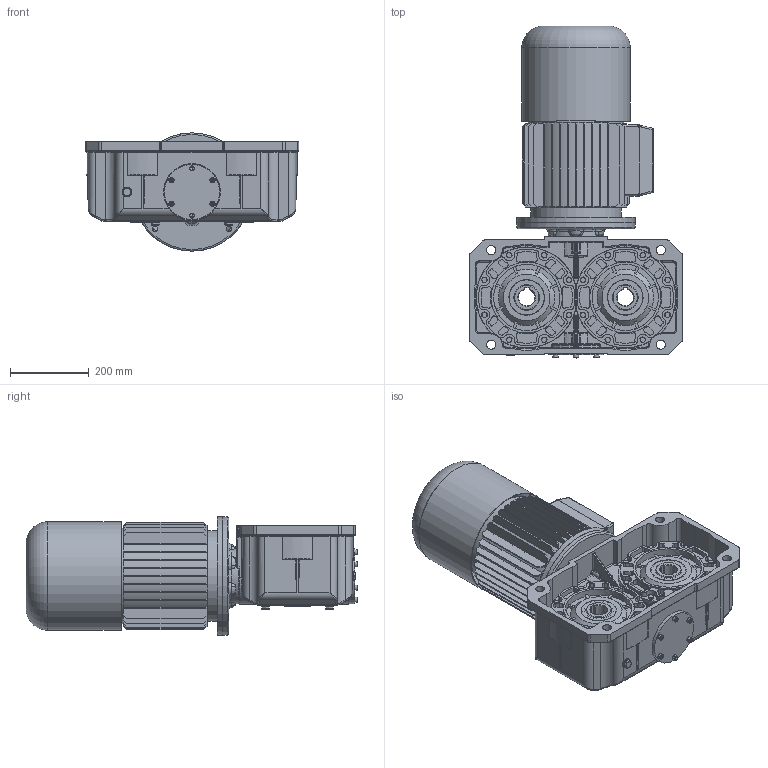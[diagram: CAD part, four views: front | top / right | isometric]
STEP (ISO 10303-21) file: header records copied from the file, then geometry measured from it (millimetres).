
FILE_DESCRIPTION((''),'2;1');
FILE_NAME('Y:\Archivi Inventor\Prog_07\int_250\Figurini\mrv250 2u x sito\Fig_MRV2U 250_132s_b5_b.stp','2013-02-15T10:26:05',('tech3'),(''),'Autodesk Inventor 2013','Autodesk Inventor 2013','');
FILE_SCHEMA(('AUTOMOTIVE_DESIGN { 1 0 10303 214 1 1 1 1 }'));
Length unit declared in the file: millimetre
Products named in the file (13): Fig_MRV2U 250; Figurino_Carcassa 250_2U; Figurino_Corona 250_2U; 0725002; 0725009; UNI 5739 M8 x 25; UNI 5931 M 8 x  30; Guarnizione 3_8 GAS; Tappo3_8 GAS; UNI ISO 6194-1 (4) Tipo4 65 x  90 x  10; DIN EN ISO 4762 M8 x 20; 0107006; motori B5 brake 132S
Assembly tree (48 placements, depth 2):
  Fig_MRV2U 250
    Figurino_Carcassa 250_2U
    Figurino_Corona 250_2U  x2
    0725002  x2
    0725009
    UNI 5739 M8 x 25  x16
    UNI 5931 M 8 x  30  x6
    Guarnizione 3_8 GAS  x4
    Tappo3_8 GAS  x4
    UNI ISO 6194-1 (4) Tipo4 65 x  90 x  10  x4
    DIN EN ISO 4762 M8 x 20  x6
    0107006
    motori B5 brake 132S
Bounding box: 542 x 841.7 x 300 mm (x, y, z)
Volume: 33268930.8 mm3; surface area: 2968772.6 mm2
Topology: 49 solids, 51 shells, 2518 faces, 6052 edges, 3686 vertices
Faces by surface type: plane 975, cylinder 859, bspline 252, torus 197, cone 191, sphere 44
Full cylindrical faces by diameter (mm): 5 x1, 6.647 x28, 8 x28, 8.5 x28, 11.63 x16, 13 x12, 13.046 x4, 14 x8, 14.95 x4, 16.3 x4, 20 x6, 22 x8, 23 x4, 25 x4, 38 x1, 65 x2, 71 x4, 85 x4, 90 x10, 100 x4, 140 x2, 168 x2, 180 x2, 216 x4, 230 x3, 242 x1, 271 x1, 275 x1, 300 x2
Entity records: 62611 total; most frequent: CARTESIAN_POINT 21215, DIRECTION 8585, ORIENTED_EDGE 8046, EDGE_CURVE 4023, AXIS2_PLACEMENT_3D 3456, VERTEX_POINT 2521, EDGE_LOOP 2054, FACE_OUTER_BOUND 1752
